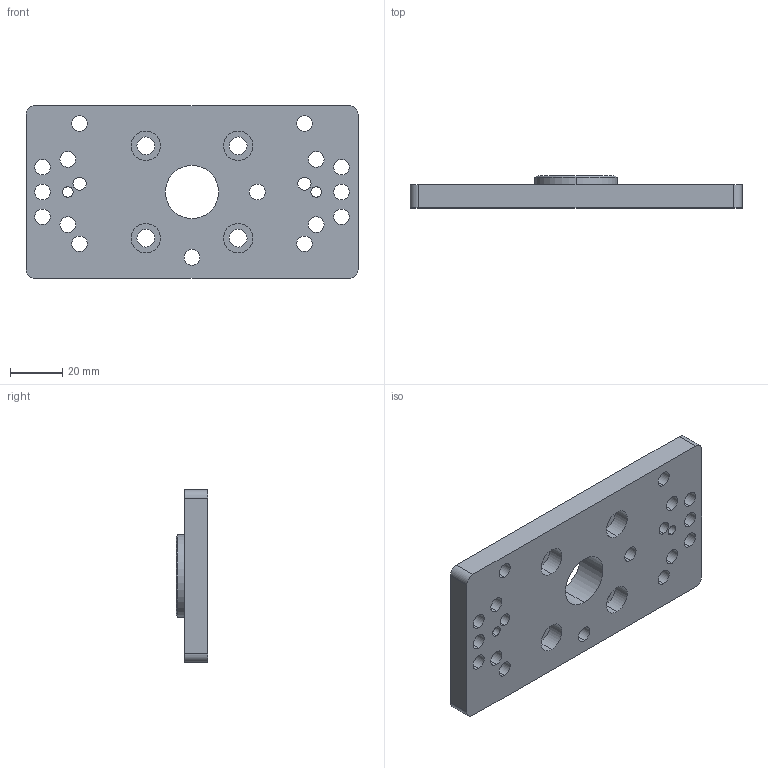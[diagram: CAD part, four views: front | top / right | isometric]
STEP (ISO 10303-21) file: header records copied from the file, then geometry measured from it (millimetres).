
FILE_DESCRIPTION (( 'STEP AP203' ), '1' );
FILE_NAME ('3700-50-9210.STEP', '2021-10-07T17:47:17', ( '' ), ( '' ), 'SwSTEP 2.0', 'SolidWorks 2020', '' );
FILE_SCHEMA (( 'CONFIG_CONTROL_DESIGN' ));
Length unit declared in the file: inch
Products named in the file (1): 3700-50-9210
Bounding box: 127 x 12.19 x 66.04 mm (x, y, z)
Volume: 65568.8 mm3; surface area: 23545.3 mm2
Topology: 1 solids, 1 shells, 77 faces, 208 edges, 138 vertices
Faces by surface type: cylinder 64, plane 11, cone 2
Entity records: 2675 total; most frequent: DIRECTION 494, CARTESIAN_POINT 424, ORIENTED_EDGE 416, EDGE_CURVE 208, AXIS2_PLACEMENT_3D 208, VERTEX_POINT 138, EDGE_LOOP 132, CIRCLE 130
